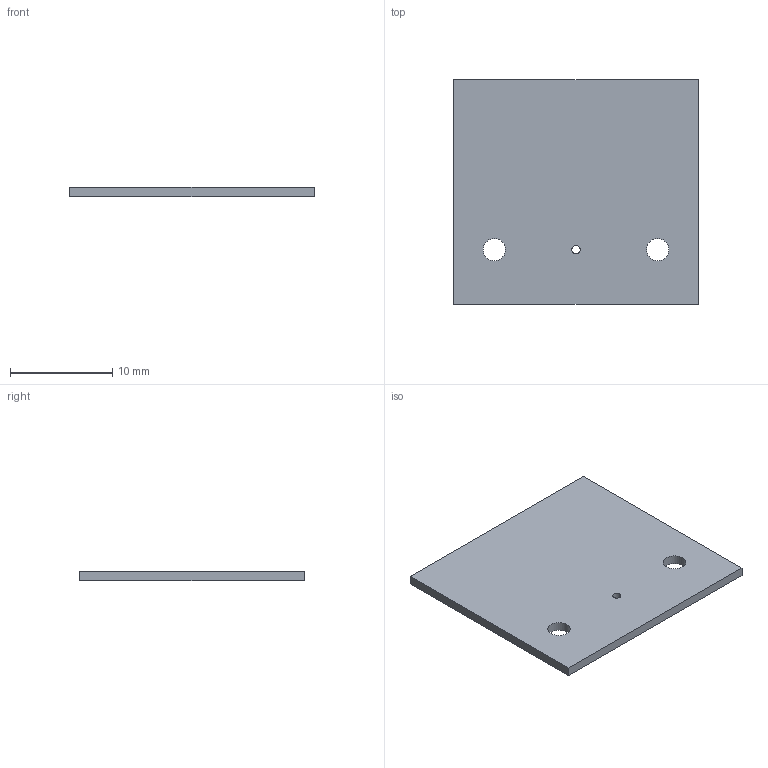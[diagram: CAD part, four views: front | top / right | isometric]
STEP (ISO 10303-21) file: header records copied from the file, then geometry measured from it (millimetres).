
FILE_DESCRIPTION(('KiCad electronic assembly'),'2;1');
FILE_NAME('PCB-MIC_board.step','2026-10-16T00:52:52',('Pcbnew'),('Kicad' ),'Open CASCADE STEP processor 7.9','KiCad to STEP converter', 'Unknown');
FILE_SCHEMA(('AUTOMOTIVE_DESIGN { 1 0 10303 214 1 1 1 1 }'));
Length unit declared in the file: millimetre
Products named in the file (2): PCB-MIC_board 1; PCB-MIC_PCB
Assembly tree (1 placements, depth 2):
  PCB-MIC_board 1
    PCB-MIC_PCB
Bounding box: 24 x 22 x 0.91 mm (x, y, z)
Volume: 473.1 mm3; surface area: 1138.4 mm2
Topology: 1 solids, 1 shells, 9 faces, 21 edges, 14 vertices
Faces by surface type: plane 6, cylinder 3
Full cylindrical faces by diameter (mm): 0.8 x1, 2.2 x2
Entity records: 310 total; most frequent: DIRECTION 49, CARTESIAN_POINT 46, ORIENTED_EDGE 42, EDGE_CURVE 21, AXIS2_PLACEMENT_3D 17, FACE_BOUND 15, EDGE_LOOP 15, LINE 15
